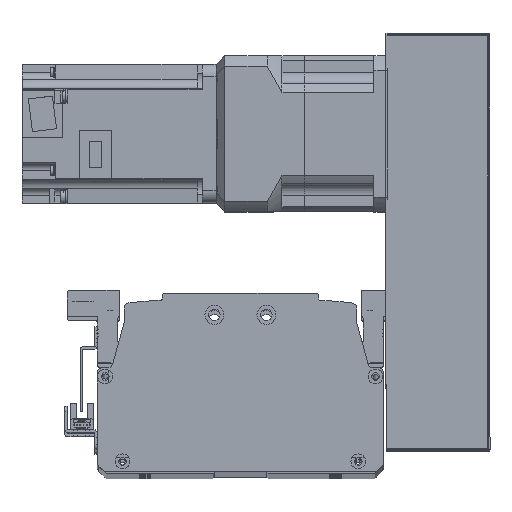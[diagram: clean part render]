
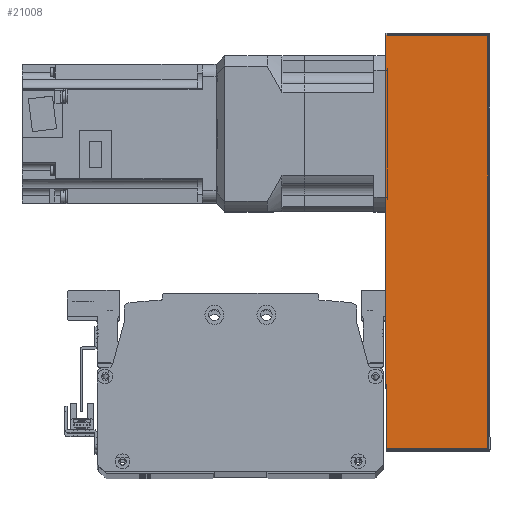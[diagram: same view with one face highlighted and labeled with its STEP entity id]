
A CAD part, top view. The second image highlights one B-rep face of the part: STEP entity #21008.
In plain terms, the highlighted planar face has unit normal (0, 0, 1) as drawn and (0, -1, 0) by its records, which use the part's own axes.
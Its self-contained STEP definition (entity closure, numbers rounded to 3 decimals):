
#572=PLANE('',#22916);
#1690=LINE('',#33409,#3350);
#1716=LINE('',#33505,#3376);
#1717=LINE('',#33513,#3377);
#1724=LINE('',#33538,#3384);
#3350=VECTOR('',#27191,10.);
#3376=VECTOR('',#27309,10.);
#3377=VECTOR('',#27320,10.);
#3384=VECTOR('',#27355,10.);
#5425=FACE_OUTER_BOUND('',#6909,.T.);
#6909=EDGE_LOOP('',(#16510,#16511,#16512,#16513));
#9815=VERTEX_POINT('',#33406);
#9816=VERTEX_POINT('',#33408);
#9840=VERTEX_POINT('',#33501);
#9841=VERTEX_POINT('',#33507);
#12194=EDGE_CURVE('',#9816,#9815,#1690,.T.);
#12244=EDGE_CURVE('',#9815,#9840,#1716,.T.);
#12248=EDGE_CURVE('',#9841,#9816,#1717,.T.);
#12261=EDGE_CURVE('',#9840,#9841,#1724,.T.);
#16510=ORIENTED_EDGE('',*,*,#12244,.T.);
#16511=ORIENTED_EDGE('',*,*,#12261,.T.);
#16512=ORIENTED_EDGE('',*,*,#12248,.T.);
#16513=ORIENTED_EDGE('',*,*,#12194,.T.);
#21008=ADVANCED_FACE('',(#5425),#572,.F.);
#22916=AXIS2_PLACEMENT_3D('',#33544,#27365,#27366);
#27191=DIRECTION('',(1.,0.,0.));
#27309=DIRECTION('',(0.,0.,1.));
#27320=DIRECTION('',(0.,0.,-1.));
#27355=DIRECTION('',(-1.,0.,0.));
#27365=DIRECTION('center_axis',(0.,1.,0.));
#27366=DIRECTION('ref_axis',(1.,0.,0.));
#33406=CARTESIAN_POINT('',(119.5,-51.,-30.));
#33408=CARTESIAN_POINT('',(-119.5,-51.,-30.));
#33409=CARTESIAN_POINT('',(120.5,-51.,-30.));
#33501=CARTESIAN_POINT('',(119.5,-51.,29.));
#33505=CARTESIAN_POINT('',(119.5,-51.,0.));
#33507=CARTESIAN_POINT('',(-119.5,-51.,29.));
#33513=CARTESIAN_POINT('',(-119.5,-51.,0.));
#33538=CARTESIAN_POINT('',(-60.25,-51.,29.));
#33544=CARTESIAN_POINT('Origin',(-120.5,-51.,0.));
